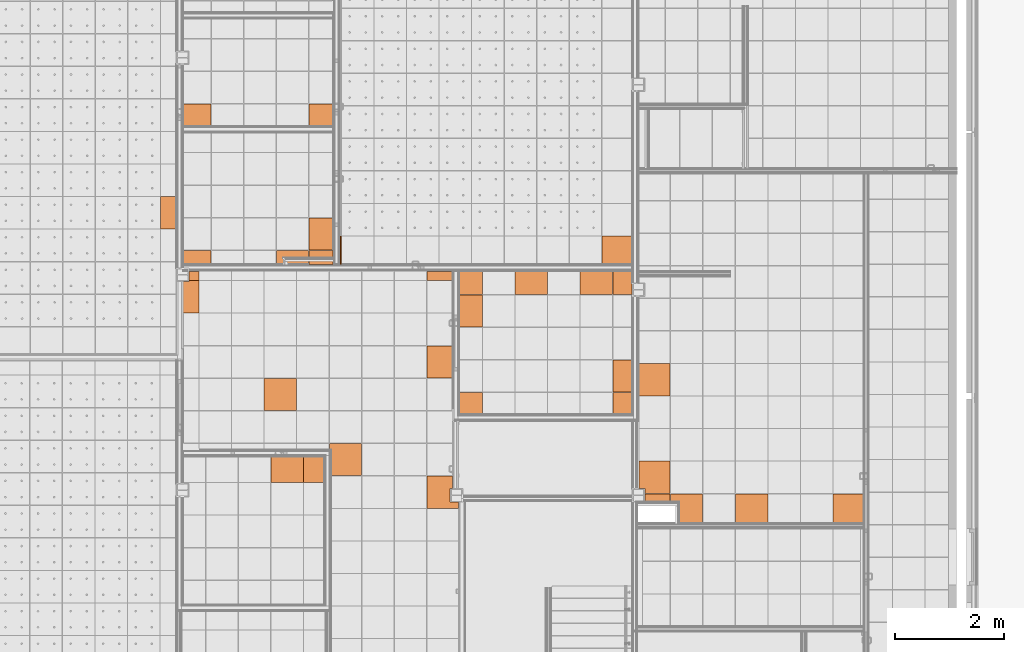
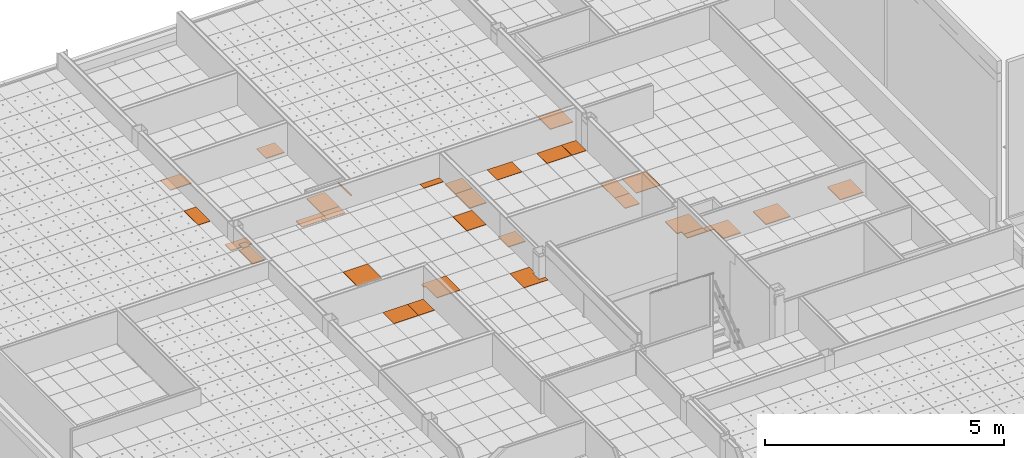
# One storey, part 334 of 338: 32 proxies, 8 elements without a shape of their own.
"""IFC2X3 building model written with IfcOpenShell, lengths in millimetres."""

from ifc_helpers import new_model, entity, si_unit, converted_unit, derived_unit, money_unit, direction, frame, origin_with_axes, place, context, subcontext, project, spatial, faceted_brep, material, type_object, element, aggregate, save


model = new_model("IFC2X3")

# Units and contexts
model_context = context("Model", 3, precision=0.01, world=origin_with_axes(), true_north=direction((0.0, 1.0)))
plan_context = context("Plan", 3, precision=0.01, world=origin_with_axes(), true_north=direction((0.0, 1.0)))
body_context = subcontext(model_context, "Body", "Model", "MODEL_VIEW")
ifc_project = project(units=[si_unit("LENGTHUNIT", "METRE", prefix="MILLI"), si_unit("AREAUNIT", "SQUARE_METRE"), si_unit("VOLUMEUNIT", "CUBIC_METRE"), converted_unit("PLANEANGLEUNIT", "DEGREE", entity("IfcPlaneAngleMeasure", 0.0174532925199), si_unit("PLANEANGLEUNIT", "RADIAN"), dimensions=[0, 0, 0, 0, 0, 0, 0]), money_unit("EUR"), converted_unit("TIMEUNIT", "Year", entity("IfcTimeMeasure", 31556926.0), si_unit("TIMEUNIT", "SECOND"), dimensions=[0, 0, 1, 0, 0, 0, 0]), si_unit("MASSUNIT", "GRAM", prefix="KILO"), si_unit("THERMODYNAMICTEMPERATUREUNIT", "DEGREE_CELSIUS"), si_unit("LUMINOUSINTENSITYUNIT", "LUMEN"), si_unit("ENERGYUNIT", "JOULE", prefix="MEGA"), derived_unit("THERMALCONDUCTANCEUNIT", [(si_unit("POWERUNIT", "WATT"), 1), (si_unit("LENGTHUNIT", "METRE"), -1), (si_unit("THERMODYNAMICTEMPERATUREUNIT", "KELVIN"), -1)]), derived_unit("SPECIFICHEATCAPACITYUNIT", [(si_unit("ENERGYUNIT", "JOULE"), 1), (si_unit("MASSUNIT", "GRAM", prefix="KILO"), -1), (si_unit("THERMODYNAMICTEMPERATUREUNIT", "KELVIN"), -1)]), derived_unit("MASSDENSITYUNIT", [(si_unit("MASSUNIT", "GRAM", prefix="KILO"), 1), (si_unit("VOLUMEUNIT", "CUBIC_METRE"), -1)])], contexts=[model_context, plan_context])

# Site, building, storey
site_placement = place(None, origin_with_axes())
site = spatial("IfcSite", under=ifc_project, at=site_placement, Name="Fortuinstraat Woensdrecht", CompositionType="ELEMENT")
building_placement = place(site_placement, origin_with_axes())
building = spatial("IfcBuilding", under=site, at=building_placement, Name="IKC Fortuna", CompositionType="ELEMENT")
storey_placement = place(building_placement, origin_with_axes())
storey = spatial("IfcBuildingStorey", under=building, at=storey_placement, Name="00 begane grond", CompositionType="ELEMENT", Elevation=0.0)

# Covering, proxies
covering_type = type_object("IfcCoveringType", Name="Curtain Wall Type", PredefinedType="CEILING")
covering_1_placement = place(storey_placement, frame((21169.4446171, 27661.0834994, 3010.0), z_axis=(0.0, 0.0, 1.0), x_axis=(1.0, 0.0, 0.0)))
covering_1 = element("IfcCovering", 1, at=covering_1_placement, inside=storey, type_object=covering_type, Name="45_Plafondafwerking_P04", PredefinedType="CEILING")
ifc_material = material(Name="Gipsplaat")
building_element_proxy_type_1 = type_object("IfcBuildingElementProxyType", Name="Distinct Panel 600 x 600 x 20", PredefinedType="NOTDEFINED")
proxy_1_placement = place(covering_1_placement, frame((1200.0, -1800.0, 0.0), z_axis=(0.0, 0.0, 1.0), x_axis=(1.0, 0.0, 0.0)))
proxy_1 = element("IfcBuildingElementProxy", 2, at=proxy_1_placement, type_object=building_element_proxy_type_1, material=ifc_material, Name="__Panel-D", context=body_context, shape_type="Brep", body=[
    faceted_brep([(-297.5, 297.5, -10.0), (-297.5, 297.5, 9.99999999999), (297.5, 297.5, 9.99999999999), (297.5, 297.5, -10.0), (-297.5, -297.5, -10.0), (-297.5, -297.5, 9.99999999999), (297.5, -297.5, 9.99999999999), (297.5, -297.5, -10.0)], [[[0, 1, 2, 3]], [[4, 5, 1, 0]], [[1, 5, 6, 2]], [[3, 2, 6, 7]], [[0, 3, 7, 4]], [[7, 6, 5, 4]]]),
])
proxy_2_placement = place(covering_1_placement, frame((2312.83011826, -2940.96412363, 0.0), z_axis=(0.0, 0.0, 1.0), x_axis=(1.0, 0.0, 0.0)))
proxy_2 = element("IfcBuildingElementProxy", 3, at=proxy_2_placement, type_object=building_element_proxy_type_1, material=ifc_material, Name="__Panel-D", context=body_context, shape_type="Brep", body=[
    faceted_brep([(-210.330118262, 238.464123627, -10.0), (-210.330118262, 238.464123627, 9.99999999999), (384.669881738, 238.464123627, 9.99999999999), (384.669881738, 238.464123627, -10.0), (-210.330118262, 120.571716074, -10.0), (-210.330118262, 120.571716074, 9.99999999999), (-171.839765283, 120.571805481, 9.99999999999), (-171.839765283, -356.535876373, 9.99999999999), (384.669881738, -356.535876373, 9.99999999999), (384.669881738, -356.535876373, -10.0), (-171.839765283, -356.535876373, -10.0), (-171.839765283, 120.571805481, -10.0)], [[[0, 1, 2, 3]], [[4, 5, 1, 0]], [[1, 5, 6, 7, 8, 2]], [[3, 2, 8, 9]], [[0, 3, 9, 10, 11, 4]], [[11, 6, 5, 4]], [[10, 7, 6, 11]], [[9, 8, 7, 10]]]),
])

# Covering, proxy
covering_2_placement = place(storey_placement, frame((15059.4416165, 34009.703821, 3210.0), z_axis=(0.0, 0.0, 1.0), x_axis=(1.0, 0.0, 0.0)))
covering_2 = element("IfcCovering", 4, at=covering_2_placement, inside=storey, type_object=covering_type, Name="45_Plafondafwerking_P01", PredefinedType="CEILING")
building_element_proxy_type_2 = type_object("IfcBuildingElementProxyType", Name="Main Panel 292 x 600 x 20", PredefinedType="NOTDEFINED")
proxy_3_placement = place(covering_2_placement, frame((5246.24670484, -4800.0, 0.0), z_axis=(0.0, 0.0, 1.0), x_axis=(1.0, 0.0, 0.0)))
proxy_3 = element("IfcBuildingElementProxy", 5, at=proxy_3_placement, type_object=building_element_proxy_type_2, material=ifc_material, Name="__Panel-D", context=body_context, shape_type="Brep", body=[
    faceted_brep([(143.746705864, 297.5, -10.0), (-143.746704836, 297.5, -10.0), (-143.746704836, 297.5, 9.99999999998), (143.746705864, 297.5, 9.99999999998), (143.746705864, -297.5, -10.0), (-143.746704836, -297.5, -10.0), (-143.746704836, -297.5, 9.99999999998), (143.746705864, -297.5, 9.99999999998)], [[[0, 1, 2, 3]], [[0, 4, 5, 1]], [[1, 5, 6, 2]], [[3, 2, 6, 7]], [[4, 0, 3, 7]], [[5, 4, 7, 6]]]),
])
aggregate(covering_2, [proxy_3])

# Proxy
building_element_proxy_type_3 = type_object("IfcBuildingElementProxyType", Name="Distinct Panel 475 x 600 x 20", PredefinedType="NOTDEFINED")
proxy_4_placement = place(covering_1_placement, frame((4137.43307307, -1200.0, 1.53654866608e-10), z_axis=(0.0, 0.0, 1.0), x_axis=(1.0, 0.0, 0.0)))
proxy_4 = element("IfcBuildingElementProxy", 6, at=proxy_4_placement, type_object=building_element_proxy_type_3, material=ifc_material, Name="__Panel-D", context=body_context, shape_type="Brep", body=[
    faceted_brep([(-234.933075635, 297.5, -10.0), (-234.933075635, 297.5, 9.99999999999), (234.933073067, 297.5, 9.99999999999), (234.933073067, 297.5, -10.0), (-234.933075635, -297.5, -10.0), (-234.933075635, -297.5, 9.99999999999), (234.933073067, -297.5, 9.99999999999), (234.933073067, -297.5, -10.0)], [[[0, 1, 2, 3]], [[4, 5, 1, 0]], [[1, 5, 6, 2]], [[3, 2, 6, 7]], [[0, 3, 7, 4]], [[7, 6, 5, 4]]]),
])

building_element_proxy_type_4 = type_object("IfcBuildingElementProxyType", Name="Distinct Panel 183 x 171 x 20", PredefinedType="NOTDEFINED")
proxy_5_placement = place(covering_1_placement, frame((-391.254811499, 385.659554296, 0.0), z_axis=(0.0, 0.0, 1.0), x_axis=(1.0, 0.0, 0.0)))
proxy_5 = element("IfcBuildingElementProxy", 7, at=proxy_5_placement, type_object=building_element_proxy_type_4, material=ifc_material, Name="__Panel-D", context=body_context, shape_type="Brep", body=[
    faceted_brep([(-88.7548119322, 83.1595679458, -10.0), (-88.7548119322, 83.1595679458, 9.99999999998), (88.7548119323, 83.1595407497, 9.99999999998), (88.7548119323, 83.1595407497, -10.0), (-88.7548119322, -83.1595547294, -10.0), (-88.7548119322, -83.1595547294, 9.99999999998), (88.7548119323, -83.1595547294, 9.99999999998), (88.7548119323, -83.1595547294, -10.0)], [[[0, 1, 2, 3]], [[4, 5, 1, 0]], [[1, 5, 6, 2]], [[3, 2, 6, 7]], [[0, 3, 7, 4]], [[7, 6, 5, 4]]]),
])

building_element_proxy_type_5 = type_object("IfcBuildingElementProxyType", Name="Distinct Panel 475 x 236 x 20", PredefinedType="NOTDEFINED")
proxy_6_placement = place(covering_1_placement, frame((4271.71174296, -3629.39342182, 1.58539847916e-10), z_axis=(0.0, 0.0, 1.0), x_axis=(1.0, 0.0, 0.0)))
proxy_6 = element("IfcBuildingElementProxy", 8, at=proxy_6_placement, type_object=building_element_proxy_type_5, material=ifc_material, Name="__Panel-D", context=body_context, shape_type="Brep", body=[
    faceted_brep([(-369.211743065, 326.893421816, -10.0), (-369.211743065, 326.893421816, 9.99999999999), (100.654405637, 326.893421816, 9.99999999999), (100.654405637, 326.893421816, -10.0), (-369.211743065, -268.106578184, -10.0), (-369.211743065, -268.106578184, 9.99999999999), (209.278636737, -268.106578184, 9.99999999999), (209.278690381, -154.393440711, 9.99999999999), (54.2786724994, -154.393440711, 9.99999999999), (54.2786724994, 95.6065950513, 9.99999999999), (100.654405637, 95.6065950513, 9.99999999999), (100.654405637, 95.6065950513, -10.0), (54.2786724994, 95.6065950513, -10.0), (54.2786724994, -154.393440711, -10.0), (209.278690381, -154.393440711, -10.0), (209.278636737, -268.106578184, -10.0)], [[[0, 1, 2, 3]], [[4, 5, 1, 0]], [[1, 5, 6, 7, 8, 9, 10, 2]], [[3, 2, 10, 11]], [[0, 3, 11, 12, 13, 14, 15, 4]], [[15, 6, 5, 4]], [[14, 7, 6, 15]], [[13, 8, 7, 14]], [[12, 9, 8, 13]], [[11, 10, 9, 12]]]),
])

building_element_proxy_type_6 = type_object("IfcBuildingElementProxyType", Name="Distinct Panel 183 x 600 x 20", PredefinedType="NOTDEFINED")
proxy_7_placement = place(covering_1_placement, frame((-458.339761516, 94.571030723, 0.0), z_axis=(0.0, 0.0, 1.0), x_axis=(1.0, 0.0, 0.0)))
proxy_7 = element("IfcBuildingElementProxy", 9, at=proxy_7_placement, type_object=building_element_proxy_type_6, material=ifc_material, Name="__Panel-D", context=body_context, shape_type="Brep", body=[
    faceted_brep([(-21.6698676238, 202.928969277, -10.0), (-21.6698676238, 202.928969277, 9.99999999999), (155.839761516, 202.928969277, 9.99999999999), (155.839761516, 202.928969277, -10.0), (-21.6699302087, 186.642062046, -10.0), (-21.6699302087, 186.642062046, 9.99999999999), (-131.669867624, 186.642062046, 9.99999999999), (-131.669867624, -392.071030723, 9.99999999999), (155.839761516, -392.071030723, 9.99999999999), (155.839761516, -392.071030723, -10.0), (-131.669867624, -392.071030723, -10.0), (-131.669867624, 186.642062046, -10.0)], [[[0, 1, 2, 3]], [[4, 5, 1, 0]], [[1, 5, 6, 7, 8, 2]], [[3, 2, 8, 9]], [[0, 3, 9, 10, 11, 4]], [[11, 6, 5, 4]], [[10, 7, 6, 11]], [[9, 8, 7, 10]]]),
])

building_element_proxy_type_7 = type_object("IfcBuildingElementProxyType", Name="Distinct Panel 475 x 171 x 20", PredefinedType="NOTDEFINED")
proxy_8_placement = place(covering_1_placement, frame((4137.43308082, 385.65953674, 1.54098955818e-10), z_axis=(0.0, 0.0, 1.0), x_axis=(1.0, 0.0, 0.0)))
proxy_8 = element("IfcBuildingElementProxy", 10, at=proxy_8_placement, type_object=building_element_proxy_type_7, material=ifc_material, Name="__Panel-D", context=body_context, shape_type="Brep", body=[
    faceted_brep([(-234.933079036, 83.1595612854, -10.0), (-234.933079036, 83.1595612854, 9.99999999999), (234.933094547, 83.159511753, 9.99999999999), (234.933094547, 83.159511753, -10.0), (-234.933079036, -83.1595349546, -10.0), (-234.933079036, -83.1595349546, 9.99999999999), (234.933066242, -83.1595349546, 9.99999999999), (234.933066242, -83.1595349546, -10.0)], [[[0, 1, 2, 3]], [[4, 5, 1, 0]], [[1, 5, 6, 2]], [[3, 2, 6, 7]], [[0, 3, 7, 4]], [[7, 6, 5, 4]]]),
])

aggregate(covering_1, [proxy_5, proxy_6, proxy_1, proxy_7, proxy_4, proxy_8, proxy_2])

# Covering, proxy
covering_3_placement = place(storey_placement, frame((20708.834778, 24017.7308613, 2810.0), z_axis=(0.0, 0.0, 1.0), x_axis=(1.0, 0.0, 0.0)))
covering_3 = element("IfcCovering", 11, at=covering_3_placement, inside=storey, type_object=covering_type, Name="45_Plafondafwerking_P02", PredefinedType="CEILING")
building_element_proxy_type_8 = type_object("IfcBuildingElementProxyType", Name="Distinct Panel 600 x 475 x 20", PredefinedType="NOTDEFINED")
proxy_9_placement = place(covering_3_placement, frame((1785.69944934, 457.947261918, 0.0), z_axis=(0.0, 0.0, 1.0), x_axis=(1.0, 0.0, 0.0)))
proxy_9 = element("IfcBuildingElementProxy", 12, at=proxy_9_placement, type_object=building_element_proxy_type_8, material=ifc_material, Name="__Panel-D", context=body_context, shape_type="Brep", body=[
    faceted_brep([(297.5, 235.013031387, -10.0), (-297.5, 235.013031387, -10.0), (-297.5, 235.013031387, 9.99999999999), (297.5, 235.013031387, 9.99999999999), (297.5, -235.013030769, -10.0), (-297.5, -235.013030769, -10.0), (-297.5, -235.013030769, 9.99999999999), (297.5, -235.013030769, 9.99999999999)], [[[0, 1, 2, 3]], [[0, 4, 5, 1]], [[1, 5, 6, 2]], [[3, 2, 6, 7]], [[4, 0, 3, 7]], [[5, 4, 7, 6]]]),
])

covering_4_placement = place(storey_placement, frame((20835.6898058, 28819.9024925, 2810.0), z_axis=(0.0, 0.0, 1.0), x_axis=(1.0, 0.0, 0.0)))
covering_4 = element("IfcCovering", 13, at=covering_4_placement, inside=storey, type_object=covering_type, Name="45_Plafondafwerking_P02", PredefinedType="CEILING")
building_element_proxy_type_9 = type_object("IfcBuildingElementProxyType", Name="Distinct Panel 450 x 600 x 20", PredefinedType="NOTDEFINED")
proxy_10_placement = place(covering_4_placement, frame((2283.71002588, 0.0, 0.0), z_axis=(0.0, 0.0, 1.0), x_axis=(1.0, 0.0, 0.0)))
proxy_10 = element("IfcBuildingElementProxy", 14, at=proxy_10_placement, type_object=building_element_proxy_type_9, material=ifc_material, Name="__Panel-D", context=body_context, shape_type="Brep", body=[
    faceted_brep([(222.455181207, 297.5, -10.0), (-222.455179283, 297.5, -10.0), (-222.455179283, 297.5, 9.99999999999), (222.455181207, 297.5, 9.99999999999), (222.455181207, -297.5, -10.0), (-222.455179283, -297.5, -10.0), (-222.455179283, -297.5, 9.99999999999), (222.455181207, -297.5, 9.99999999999)], [[[0, 1, 2, 3]], [[0, 4, 5, 1]], [[1, 5, 6, 2]], [[3, 2, 6, 7]], [[4, 0, 3, 7]], [[5, 4, 7, 6]]]),
])

# Covering, proxies
covering_5_placement = place(storey_placement, frame((22594.4446507, 31013.6071773, 2810.0), z_axis=(0.0, 0.0, 1.0), x_axis=(1.0, 0.0, 0.0)))
covering_5 = element("IfcCovering", 15, at=covering_5_placement, inside=storey, type_object=covering_type, Name="45_Plafondafwerking_P02", PredefinedType="CEILING")
building_element_proxy_type_10 = type_object("IfcBuildingElementProxyType", Name="Distinct Panel 518 x 412 x 20", PredefinedType="NOTDEFINED")
proxy_11_placement = place(covering_5_placement, frame((-1758.7548466, -3.44794415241e-07, 0.0), z_axis=(0.0, 0.0, 1.0), x_axis=(1.0, 0.0, 0.0)))
proxy_11 = element("IfcBuildingElementProxy", 16, at=proxy_11_placement, type_object=building_element_proxy_type_10, material=ifc_material, Name="__Panel-D", context=body_context, shape_type="Brep", body=[
    faceted_brep([(256.254846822, 203.704595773, -10.0), (-256.254846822, 203.704595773, -10.0), (-256.254846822, 203.704595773, 9.99999999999), (256.254846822, 203.704595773, 9.99999999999), (256.254846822, -203.704595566, -10.0), (-256.254846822, -203.704587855, -10.0), (-256.254846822, -203.704587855, 9.99999999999), (256.254846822, -203.704595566, 9.99999999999)], [[[0, 1, 2, 3]], [[0, 4, 5, 1]], [[1, 5, 6, 2]], [[3, 2, 6, 7]], [[4, 0, 3, 7]], [[5, 4, 7, 6]]]),
])
building_element_proxy_type_11 = type_object("IfcBuildingElementProxyType", Name="Distinct Panel 450 x 412 x 20", PredefinedType="NOTDEFINED")
proxy_12_placement = place(covering_5_placement, frame((524.955183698, 1.43508316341e-06, 0.0), z_axis=(0.0, 0.0, 1.0), x_axis=(1.0, 0.0, 0.0)))
proxy_12 = element("IfcBuildingElementProxy", 17, at=proxy_12_placement, type_object=building_element_proxy_type_11, material=ifc_material, Name="__Panel-D", context=body_context, shape_type="Brep", body=[
    faceted_brep([(222.455171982, 203.704591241, -10.0), (-222.455183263, 203.704591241, -10.0), (-222.455183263, 203.704591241, 9.99999999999), (222.455171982, 203.704591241, 9.99999999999), (222.455192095, -203.704590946, -10.0), (-222.455183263, -203.704590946, -10.0), (-222.455183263, -203.704590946, 9.99999999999), (222.455192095, -203.704590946, 9.99999999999)], [[[0, 1, 2, 3]], [[0, 4, 5, 1]], [[1, 5, 6, 2]], [[3, 2, 6, 7]], [[4, 0, 3, 7]], [[5, 4, 7, 6]]]),
])
aggregate(covering_5, [proxy_11, proxy_12])

# Proxy
building_element_proxy_type_12 = type_object("IfcBuildingElementProxyType", Name="Distinct Panel 600 x 262 x 20", PredefinedType="NOTDEFINED")
proxy_13_placement = place(covering_4_placement, frame((1758.7548466, -431.249960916, 0.0), z_axis=(0.0, 0.0, 1.0), x_axis=(1.0, 0.0, 0.0)))
proxy_13 = element("IfcBuildingElementProxy", 18, at=proxy_13_placement, type_object=building_element_proxy_type_12, material=ifc_material, Name="__Panel-D", context=body_context, shape_type="Brep", body=[
    faceted_brep([(297.5, 128.749957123, -10.0), (-297.5, 128.749957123, -10.0), (-297.5, 128.749957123, 9.99999999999), (297.5, 128.749957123, 9.99999999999), (297.5, -128.749980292, -10.0), (-297.5, -128.749944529, -10.0), (-297.5, -128.749944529, 9.99999999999), (297.5, -128.749980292, 9.99999999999)], [[[0, 1, 2, 3]], [[0, 4, 5, 1]], [[1, 5, 6, 2]], [[3, 2, 6, 7]], [[4, 0, 3, 7]], [[5, 4, 7, 6]]]),
])

building_element_proxy_type_13 = type_object("IfcBuildingElementProxyType", Name="Distinct Panel 450 x 262 x 20", PredefinedType="NOTDEFINED")
proxy_14_placement = place(covering_4_placement, frame((2283.71003027, -431.249970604, 0.0), z_axis=(0.0, 0.0, 1.0), x_axis=(1.0, 0.0, 0.0)))
proxy_14 = element("IfcBuildingElementProxy", 19, at=proxy_14_placement, type_object=building_element_proxy_type_13, material=ifc_material, Name="__Panel-D", context=body_context, shape_type="Brep", body=[
    faceted_brep([(222.455171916, 128.749967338, -10.0), (-222.455183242, 128.749967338, -10.0), (-222.455183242, 128.749967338, 9.99999999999), (222.455171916, 128.749967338, 9.99999999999), (222.455192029, -128.74997017, -10.0), (-222.455183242, -128.74997017, -10.0), (-222.455183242, -128.74997017, 9.99999999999), (222.455192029, -128.74997017, 9.99999999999)], [[[0, 1, 2, 3]], [[0, 4, 5, 1]], [[1, 5, 6, 2]], [[3, 2, 6, 7]], [[4, 0, 3, 7]], [[5, 4, 7, 6]]]),
])

building_element_proxy_type_14 = type_object("IfcBuildingElementProxyType", Name="Distinct Panel 518 x 262 x 20", PredefinedType="NOTDEFINED")
proxy_15_placement = place(covering_4_placement, frame((0.0, -431.249953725, 0.0), z_axis=(0.0, 0.0, 1.0), x_axis=(1.0, 0.0, 0.0)))
proxy_15 = element("IfcBuildingElementProxy", 20, at=proxy_15_placement, type_object=building_element_proxy_type_14, material=ifc_material, Name="__Panel-D", context=body_context, shape_type="Brep", body=[
    faceted_brep([(256.254846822, 128.749956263, -10.0), (-256.254846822, 128.749956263, -10.0), (-256.254846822, 128.749956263, 9.99999999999), (256.254846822, 128.749956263, 9.99999999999), (256.254846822, -128.74995123, -10.0), (-256.254846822, -128.749958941, -10.0), (-256.254846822, -128.749958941, 9.99999999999), (256.254846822, -128.74995123, 9.99999999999)], [[[0, 1, 2, 3]], [[0, 4, 5, 1]], [[1, 5, 6, 2]], [[3, 2, 6, 7]], [[4, 0, 3, 7]], [[5, 4, 7, 6]]]),
])

aggregate(covering_4, [proxy_14, proxy_15, proxy_10, proxy_13])

building_element_proxy_type_15 = type_object("IfcBuildingElementProxyType", Name="Distinct Panel 388 x 475 x 20", PredefinedType="NOTDEFINED")
proxy_16_placement = place(covering_3_placement, frame((2279.89982665, 457.947261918, 0.0), z_axis=(0.0, 0.0, 1.0), x_axis=(1.0, 0.0, 0.0)))
proxy_16 = element("IfcBuildingElementProxy", 21, at=proxy_16_placement, type_object=building_element_proxy_type_15, material=ifc_material, Name="__Panel-D", context=body_context, shape_type="Brep", body=[
    faceted_brep([(191.700374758, 235.013029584, -10.0), (-191.700376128, 235.013029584, -10.0), (-191.700376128, 235.013029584, 9.99999999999), (191.700374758, 235.013029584, 9.99999999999), (191.700374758, -235.013029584, -10.0), (-191.700376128, -235.013029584, -10.0), (-191.700376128, -235.013029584, 9.99999999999), (191.700374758, -235.013029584, 9.99999999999)], [[[0, 1, 2, 3]], [[0, 4, 5, 1]], [[1, 5, 6, 2]], [[3, 2, 6, 7]], [[4, 0, 3, 7]], [[5, 4, 7, 6]]]),
])

aggregate(covering_3, [proxy_16, proxy_9])

# Covering, proxies
covering_6_placement = place(storey_placement, frame((29266.9722516, 29133.4974296, 2810.0), z_axis=(0.0, 0.0, 1.0), x_axis=(1.0, 0.0, 0.0)))
covering_6 = element("IfcCovering", 22, at=covering_6_placement, inside=storey, type_object=covering_type, Name="45_Plafondafwerking_P02 v", PredefinedType="CEILING")
building_element_proxy_type_16 = type_object("IfcBuildingElementProxyType", Name="Distinct Panel 580 x 600 x 20", PredefinedType="NOTDEFINED")
proxy_17_placement = place(covering_6_placement, frame((5.87751003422e-06, -3000.0, 0.0), z_axis=(0.0, 0.0, 1.0), x_axis=(1.0, 0.0, 0.0)))
proxy_17 = element("IfcBuildingElementProxy", 23, at=proxy_17_placement, type_object=building_element_proxy_type_16, material=ifc_material, Name="__Panel-D", context=body_context, shape_type="Brep", body=[
    faceted_brep([(-287.537273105, 297.5, -10.0), (-287.537273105, 297.5, 9.99999999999), (287.537274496, 297.5, 9.99999999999), (287.537274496, 297.5, -10.0), (-287.537273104, -297.5, -10.0), (-287.537273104, -297.5, 9.99999999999), (287.537274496, -297.5, 9.99999999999), (287.537274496, -297.5, -10.0)], [[[0, 1, 2, 3]], [[4, 5, 1, 0]], [[1, 5, 6, 2]], [[3, 2, 6, 7]], [[0, 3, 7, 4]], [[7, 6, 5, 4]]]),
])
proxy_18_placement = place(covering_6_placement, frame((-60.012415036, -4869.56692105, 0.0), z_axis=(0.0, 0.0, 1.0), x_axis=(1.0, 0.0, 0.0)))
proxy_18 = element("IfcBuildingElementProxy", 24, at=proxy_18_placement, type_object=building_element_proxy_type_16, material=ifc_material, Name="__Panel-D", context=body_context, shape_type="Brep", body=[
    faceted_brep([(-227.524852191, 367.066921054, -10.0), (-227.524852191, 367.066921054, 9.99999999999), (347.549695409, 367.066921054, 9.99999999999), (347.549695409, 367.066921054, -10.0), (-227.524852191, -136.633842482, -10.0), (-227.524852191, -136.633842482, 9.99999999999), (-117.52484325, -136.633842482, 9.99999999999), (-117.52484325, -227.933078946, 9.99999999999), (347.549695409, -227.933078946, 9.99999999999), (347.549695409, -227.933078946, -10.0), (-117.52484325, -227.933078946, -10.0), (-117.52484325, -136.633842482, -10.0)], [[[0, 1, 2, 3]], [[4, 5, 1, 0]], [[1, 5, 6, 7, 8, 2]], [[3, 2, 8, 9]], [[0, 3, 9, 10, 11, 4]], [[11, 6, 5, 4]], [[10, 7, 6, 11]], [[9, 8, 7, 10]]]),
])
building_element_proxy_type_17 = type_object("IfcBuildingElementProxyType", Name="Distinct Panel 470 x 154 x 20", PredefinedType="NOTDEFINED")
proxy_19_placement = place(covering_6_placement, frame((55.0000075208, -5176.85043011, 0.0), z_axis=(0.0, 0.0, 1.0), x_axis=(1.0, 0.0, 0.0)))
proxy_19 = element("IfcBuildingElementProxy", 25, at=proxy_19_placement, type_object=building_element_proxy_type_17, material=ifc_material, Name="__Panel-D", context=body_context, shape_type="Brep", body=[
    faceted_brep([(-232.537260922, 74.3504335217, -10.0), (-232.537260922, 74.3504335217, 9.99999999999), (232.537273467, 74.3504335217, 9.99999999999), (232.537273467, 74.3504335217, -10.0), (-232.537281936, -74.3504307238, -10.0), (-232.537281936, -74.3504307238, 9.99999999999), (232.537273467, -74.3504307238, 9.99999999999), (232.537273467, -74.3504307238, -10.0)], [[[0, 1, 2, 3]], [[4, 5, 1, 0]], [[1, 5, 6, 2]], [[3, 2, 6, 7]], [[0, 3, 7, 4]], [[7, 6, 5, 4]]]),
])
building_element_proxy_type_18 = type_object("IfcBuildingElementProxyType", Name="Distinct Panel 600 x 549 x 20", PredefinedType="NOTDEFINED")
proxy_20_placement = place(covering_6_placement, frame((1790.03728037, -5374.49192793, 0.0), z_axis=(0.0, 0.0, 1.0), x_axis=(1.0, 0.0, 0.0)))
proxy_20 = element("IfcBuildingElementProxy", 26, at=proxy_20_placement, type_object=building_element_proxy_type_18, material=ifc_material, Name="__Panel-D", context=body_context, shape_type="Brep", body=[
    faceted_brep([(-297.5, 271.991925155, -10.0), (-297.5, 271.991925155, 9.99999999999), (297.5, 271.991925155, 9.99999999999), (297.5, 271.991925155, -10.0), (-297.5, -271.991927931, -10.0), (-297.5, -271.991927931, 9.99999999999), (297.5, -271.991927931, 9.99999999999), (297.5, -271.991927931, -10.0)], [[[0, 1, 2, 3]], [[4, 5, 1, 0]], [[1, 5, 6, 2]], [[3, 2, 6, 7]], [[0, 3, 7, 4]], [[7, 6, 5, 4]]]),
])
proxy_21_placement = place(covering_6_placement, frame((546.67907105, -5334.22823869, 0.0), z_axis=(0.0, 0.0, 1.0), x_axis=(1.0, 0.0, 0.0)))
proxy_21 = element("IfcBuildingElementProxy", 27, at=proxy_21_placement, type_object=building_element_proxy_type_18, material=ifc_material, Name="__Panel-D", context=body_context, shape_type="Brep", body=[
    faceted_brep([(-254.141790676, 231.728235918, -10.0), (-254.141790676, 231.728235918, 9.99999999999), (340.858209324, 231.728235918, 9.99999999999), (340.858209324, 231.728235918, -10.0), (-254.141790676, 83.0273740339, -10.0), (-254.141790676, 83.0273740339, 9.99999999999), (-84.2164187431, 83.0273740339, 9.99999999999), (-84.2164187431, -312.255617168, 9.99999999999), (340.858209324, -312.255617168, 9.99999999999), (340.858209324, -312.255617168, -10.0), (-84.2164187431, -312.255617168, -10.0), (-84.2164187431, 83.0273740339, -10.0)], [[[0, 1, 2, 3]], [[4, 5, 1, 0]], [[1, 5, 6, 7, 8, 2]], [[3, 2, 8, 9]], [[0, 3, 9, 10, 11, 4]], [[11, 6, 5, 4]], [[10, 7, 6, 11]], [[9, 8, 7, 10]]]),
])
building_element_proxy_type_19 = type_object("IfcBuildingElementProxyType", Name="Distinct Panel 563 x 549 x 20", PredefinedType="NOTDEFINED")
proxy_22_placement = place(covering_6_placement, frame((3571.3645627, -5374.49192793, 1.27009514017e-10), z_axis=(0.0, 0.0, 1.0), x_axis=(1.0, 0.0, 0.0)))
proxy_22 = element("IfcBuildingElementProxy", 28, at=proxy_22_placement, type_object=building_element_proxy_type_19, material=ifc_material, Name="__Panel-D", context=body_context, shape_type="Brep", body=[
    faceted_brep([(-278.82728567, 271.991927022, -10.0), (-278.82728567, 271.991927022, 9.99999999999), (278.82728567, 271.991927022, 9.99999999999), (278.82728567, 271.991927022, -10.0), (-278.82728567, -271.991931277, -10.0), (-278.82728567, -271.991931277, 9.99999999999), (278.82728567, -271.991931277, 9.99999999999), (278.82728567, -271.991931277, -10.0)], [[[0, 1, 2, 3]], [[4, 5, 1, 0]], [[1, 5, 6, 2]], [[3, 2, 6, 7]], [[0, 3, 7, 4]], [[7, 6, 5, 4]]]),
])
aggregate(covering_6, [proxy_19, proxy_20, proxy_17, proxy_22, proxy_18, proxy_21])

covering_7_placement = place(storey_placement, frame((24394.3550152, 31482.3495284, 3210.0), z_axis=(0.0, 0.0, 1.0), x_axis=(1.0, 0.0, 0.0)))
covering_7 = element("IfcCovering", 29, at=covering_7_placement, inside=storey, type_object=covering_type, Name="45_Plafondafwerking_P01", PredefinedType="CEILING")
building_element_proxy_type_20 = type_object("IfcBuildingElementProxyType", Name="25 x 525 x 20", PredefinedType="NOTDEFINED")
proxy_23_placement = place(covering_7_placement, frame((-912.500019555, -2962.47347248, 1.75859327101e-10), z_axis=(0.0, 0.0, 1.0), x_axis=(1.0, 0.0, 0.0)))
proxy_23 = element("IfcBuildingElementProxy", 30, at=proxy_23_placement, type_object=building_element_proxy_type_20, material=ifc_material, Name="__600x606 Rockfon Krios", context=body_context, shape_type="Brep", body=[
    faceted_brep([(10.0000178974, 259.973472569, -10.0), (-10.0000126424, 259.973472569, -10.0), (-10.0000126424, 259.973472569, 10.0), (10.0000178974, 259.973472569, 10.0), (10.0000178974, -259.973472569, -10.0), (-10.000028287, -259.973472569, -10.0), (-10.000028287, -259.973472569, 10.0), (10.0000178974, -259.973472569, 10.0)], [[[0, 1, 2, 3]], [[0, 4, 5, 1]], [[1, 5, 6, 2]], [[3, 2, 6, 7]], [[4, 0, 3, 7]], [[5, 4, 7, 6]]]),
])
building_element_proxy_type_21 = type_object("IfcBuildingElementProxyType", Name="558 x 525 x 20", PredefinedType="NOTDEFINED")
proxy_24_placement = place(covering_7_placement, frame((4178.7899816, -2962.47347248, 0.0), z_axis=(0.0, 0.0, 1.0), x_axis=(1.0, 0.0, 0.0)))
proxy_24 = element("IfcBuildingElementProxy", 31, at=proxy_24_placement, type_object=building_element_proxy_type_21, material=ifc_material, Name="__600x651 Rockfon Krios", context=body_context, shape_type="Brep", body=[
    faceted_brep([(276.29000361, 259.973475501, -10.0), (-276.289982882, 259.973475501, -10.0), (-276.289982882, 259.973475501, 9.99999999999), (276.29000361, 259.973475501, 9.99999999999), (276.289962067, -259.973473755, -10.0), (-276.289982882, -259.973473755, -10.0), (-276.289982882, -259.973473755, 9.99999999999), (276.289962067, -259.973473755, 9.99999999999)], [[[0, 1, 2, 3]], [[0, 4, 5, 1]], [[1, 5, 6, 2]], [[3, 2, 6, 7]], [[4, 0, 3, 7]], [[5, 4, 7, 6]]]),
])
aggregate(covering_7, [proxy_23, proxy_24])

covering_8_placement = place(storey_placement, frame((25881.8218229, 26800.2480691, 2810.0), z_axis=(0.0, 0.0, 1.0), x_axis=(1.0, 0.0, 0.0)))
covering_8 = element("IfcCovering", 32, at=covering_8_placement, inside=storey, type_object=covering_type, Name="45_Plafondafwerking_P02", PredefinedType="CEILING")
building_element_proxy_type_22 = type_object("IfcBuildingElementProxyType", Name="Distinct Panel 425 x 600 x 20", PredefinedType="NOTDEFINED")
proxy_25_placement = place(covering_8_placement, frame((0.0, 600.0, 0.0), z_axis=(0.0, 0.0, 1.0), x_axis=(1.0, 0.0, 0.0)))
proxy_25 = element("IfcBuildingElementProxy", 33, at=proxy_25_placement, type_object=building_element_proxy_type_22, material=ifc_material, Name="__Panel-D", context=body_context, shape_type="Brep", body=[
    faceted_brep([(210.011068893, 297.5, -10.0), (-210.011068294, 297.5, -10.0), (-210.011068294, 297.5, 9.99999999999), (210.011068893, 297.5, 9.99999999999), (210.011068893, -297.5, -10.0), (-210.011068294, -297.5, -10.0), (-210.011068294, -297.5, 9.99999999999), (210.011068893, -297.5, 9.99999999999)], [[[0, 1, 2, 3]], [[0, 4, 5, 1]], [[1, 5, 6, 2]], [[3, 2, 6, 7]], [[4, 0, 3, 7]], [[5, 4, 7, 6]]]),
])
building_element_proxy_type_23 = type_object("IfcBuildingElementProxyType", Name="Distinct Panel 358 x 600 x 20", PredefinedType="NOTDEFINED")
proxy_26_placement = place(covering_8_placement, frame((2791.31211229, -600.0, 0.0), z_axis=(0.0, 0.0, 1.0), x_axis=(1.0, 0.0, 0.0)))
proxy_26 = element("IfcBuildingElementProxy", 34, at=proxy_26_placement, type_object=building_element_proxy_type_23, material=ifc_material, Name="__Panel-D", context=body_context, shape_type="Brep", body=[
    faceted_brep([(176.301040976, 297.5, -10.0), (-176.301043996, 297.5, -10.0), (-176.301043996, 297.5, 9.99999999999), (176.301040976, 297.5, 9.99999999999), (176.301040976, -297.5, -10.0), (-176.301043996, -297.5, -10.0), (-176.301043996, -297.5, 9.99999999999), (176.301040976, -297.5, 9.99999999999)], [[[0, 1, 2, 3]], [[0, 4, 5, 1]], [[1, 5, 6, 2]], [[3, 2, 6, 7]], [[4, 0, 3, 7]], [[5, 4, 7, 6]]]),
])
building_element_proxy_type_24 = type_object("IfcBuildingElementProxyType", Name="Distinct Panel 425 x 432 x 20", PredefinedType="NOTDEFINED")
proxy_27_placement = place(covering_8_placement, frame((0.0, 1116.07725469, 0.0), z_axis=(0.0, 0.0, 1.0), x_axis=(1.0, 0.0, 0.0)))
proxy_27 = element("IfcBuildingElementProxy", 35, at=proxy_27_placement, type_object=building_element_proxy_type_24, material=ifc_material, Name="__Panel-D", context=body_context, shape_type="Brep", body=[
    faceted_brep([(210.011066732, 213.577257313, -10.0), (-210.011069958, 213.577250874, -10.0), (-210.011069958, 213.577250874, 9.99999999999), (210.011066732, 213.577257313, 9.99999999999), (210.011066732, -213.577256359, -10.0), (-210.011069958, -213.577256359, -10.0), (-210.011069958, -213.577256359, 9.99999999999), (210.011066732, -213.577256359, 9.99999999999)], [[[0, 1, 2, 3]], [[0, 4, 5, 1]], [[1, 5, 6, 2]], [[3, 2, 6, 7]], [[4, 0, 3, 7]], [[5, 4, 7, 6]]]),
])
proxy_28_placement = place(covering_8_placement, frame((0.0, -1116.07717495, 0.0), z_axis=(0.0, 0.0, 1.0), x_axis=(1.0, 0.0, 0.0)))
proxy_28 = element("IfcBuildingElementProxy", 36, at=proxy_28_placement, type_object=building_element_proxy_type_24, material=ifc_material, Name="__Panel-D", context=body_context, shape_type="Brep", body=[
    faceted_brep([(210.01106677, 213.577177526, -10.0), (-210.011070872, 213.577177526, -10.0), (-210.011070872, 213.577177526, 9.99999999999), (210.01106677, 213.577177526, 9.99999999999), (210.01106677, -213.577179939, -10.0), (-210.011070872, -213.577173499, -10.0), (-210.011070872, -213.577173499, 9.99999999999), (210.01106677, -213.577179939, 9.99999999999)], [[[0, 1, 2, 3]], [[0, 4, 5, 1]], [[1, 5, 6, 2]], [[3, 2, 6, 7]], [[4, 0, 3, 7]], [[5, 4, 7, 6]]]),
])
building_element_proxy_type_25 = type_object("IfcBuildingElementProxyType", Name="Distinct Panel 600 x 432 x 20", PredefinedType="NOTDEFINED")
proxy_29_placement = place(covering_8_placement, frame((1112.51106829, 1116.07725517, 0.0), z_axis=(0.0, 0.0, 1.0), x_axis=(1.0, 0.0, 0.0)))
proxy_29 = element("IfcBuildingElementProxy", 37, at=proxy_29_placement, type_object=building_element_proxy_type_25, material=ifc_material, Name="__Panel-D", context=body_context, shape_type="Brep", body=[
    faceted_brep([(297.5, 213.577258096, -10.0), (-297.5, 213.577258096, -10.0), (-297.5, 213.577258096, 9.99999999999), (297.5, 213.577258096, 9.99999999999), (297.5, -213.577255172, -10.0), (-297.5, -213.577255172, -10.0), (-297.5, -213.577255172, 9.99999999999), (297.5, -213.577255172, 9.99999999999)], [[[0, 1, 2, 3]], [[0, 4, 5, 1]], [[1, 5, 6, 2]], [[3, 2, 6, 7]], [[4, 0, 3, 7]], [[5, 4, 7, 6]]]),
])
proxy_30_placement = place(covering_8_placement, frame((2312.51106829, 1116.07725517, 0.0), z_axis=(0.0, 0.0, 1.0), x_axis=(1.0, 0.0, 0.0)))
proxy_30 = element("IfcBuildingElementProxy", 38, at=proxy_30_placement, type_object=building_element_proxy_type_25, material=ifc_material, Name="__Panel-D", context=body_context, shape_type="Brep", body=[
    faceted_brep([(297.5, 213.577258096, -10.0), (-297.5, 213.577258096, -10.0), (-297.5, 213.577258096, 9.99999999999), (297.5, 213.577258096, 9.99999999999), (297.5, -213.577255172, -10.0), (-297.5, -213.577255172, -10.0), (-297.5, -213.577255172, 9.99999999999), (297.5, -213.577255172, 9.99999999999)], [[[0, 1, 2, 3]], [[0, 4, 5, 1]], [[1, 5, 6, 2]], [[3, 2, 6, 7]], [[4, 0, 3, 7]], [[5, 4, 7, 6]]]),
])
building_element_proxy_type_26 = type_object("IfcBuildingElementProxyType", Name="Distinct Panel 358 x 432 x 20", PredefinedType="NOTDEFINED")
proxy_31_placement = place(covering_8_placement, frame((2791.31211229, 1116.07724781, 0.0), z_axis=(0.0, 0.0, 1.0), x_axis=(1.0, 0.0, 0.0)))
proxy_31 = element("IfcBuildingElementProxy", 39, at=proxy_31_placement, type_object=building_element_proxy_type_26, material=ifc_material, Name="__Panel-D", context=body_context, shape_type="Brep", body=[
    faceted_brep([(176.301045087, 213.577232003, -10.0), (-176.301045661, 213.577264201, -10.0), (-176.301045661, 213.577264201, 9.99999999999), (176.301045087, 213.577232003, 9.99999999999), (176.301045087, -213.577249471, -10.0), (-176.301045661, -213.577249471, -10.0), (-176.301045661, -213.577249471, 9.99999999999), (176.301045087, -213.577249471, 9.99999999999)], [[[0, 1, 2, 3]], [[0, 4, 5, 1]], [[1, 5, 6, 2]], [[3, 2, 6, 7]], [[4, 0, 3, 7]], [[5, 4, 7, 6]]]),
])
proxy_32_placement = place(covering_8_placement, frame((2791.31211229, -1116.07718071, 0.0), z_axis=(0.0, 0.0, 1.0), x_axis=(1.0, 0.0, 0.0)))
proxy_32 = element("IfcBuildingElementProxy", 40, at=proxy_32_placement, type_object=building_element_proxy_type_26, material=ifc_material, Name="__Panel-D", context=body_context, shape_type="Brep", body=[
    faceted_brep([(176.301043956, 213.577183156, -10.0), (-176.301046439, 213.577183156, -10.0), (-176.301046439, 213.577183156, 9.99999999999), (176.301043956, 213.577183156, 9.99999999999), (176.301043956, -213.577165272, -10.0), (-176.301046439, -213.57719747, -10.0), (-176.301046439, -213.57719747, 9.99999999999), (176.301043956, -213.577165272, 9.99999999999)], [[[0, 1, 2, 3]], [[0, 4, 5, 1]], [[1, 5, 6, 2]], [[3, 2, 6, 7]], [[4, 0, 3, 7]], [[5, 4, 7, 6]]]),
])
aggregate(covering_8, [proxy_27, proxy_29, proxy_30, proxy_25, proxy_28, proxy_31, proxy_26, proxy_32])

save(model, "model.ifc")
